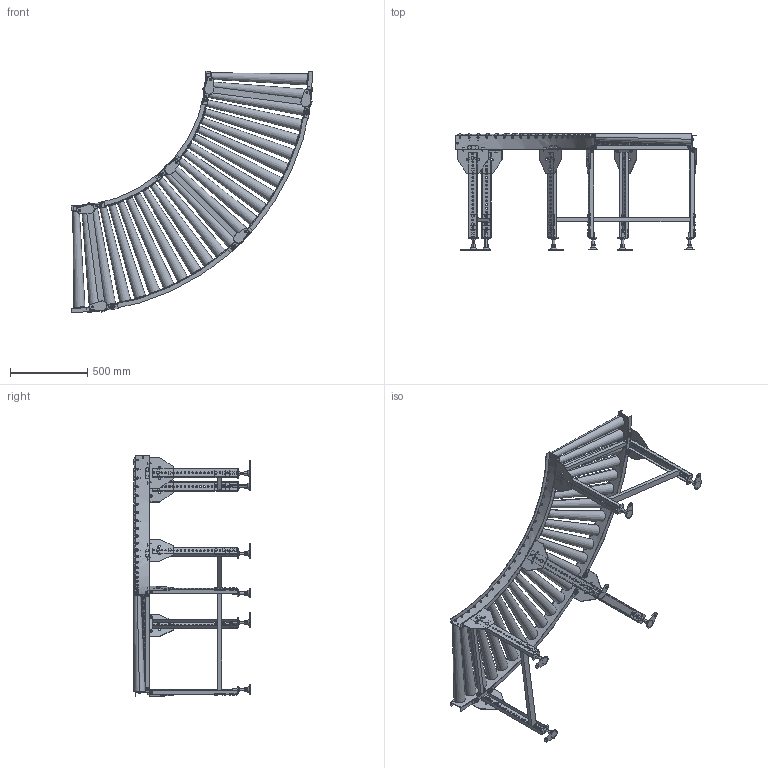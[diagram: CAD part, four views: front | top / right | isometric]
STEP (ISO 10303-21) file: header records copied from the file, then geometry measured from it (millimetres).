
FILE_DESCRIPTION (( 'STEP AP214' ), '1' );
FILE_NAME ('JRT-C9-630-75-90.STEP', '2022-09-28T23:35:42', ( '' ), ( '' ), 'SwSTEP 2.0', 'SolidWorks 2017', '' );
FILE_SCHEMA (( 'AUTOMOTIVE_DESIGN' ));
Length unit declared in the file: millimetre
Products named in the file (1): JRT-C9-630-75-90
Bounding box: 1560 x 750 x 1560 mm (x, y, z)
Volume: 46291985.8 mm3; surface area: 5672087.8 mm2
Topology: 28 solids, 58 shells, 3330 faces, 7956 edges, 5016 vertices
Faces by surface type: plane 2330, cylinder 940, cone 60
Entity records: 142292 total; most frequent: CARTESIAN_POINT 25934, DIRECTION 16946, ORIENTED_EDGE 15912, EDGE_CURVE 7956, AXIS2_PLACEMENT_3D 5945, VECTOR 5056, LINE 5056, VERTEX_POINT 5016
